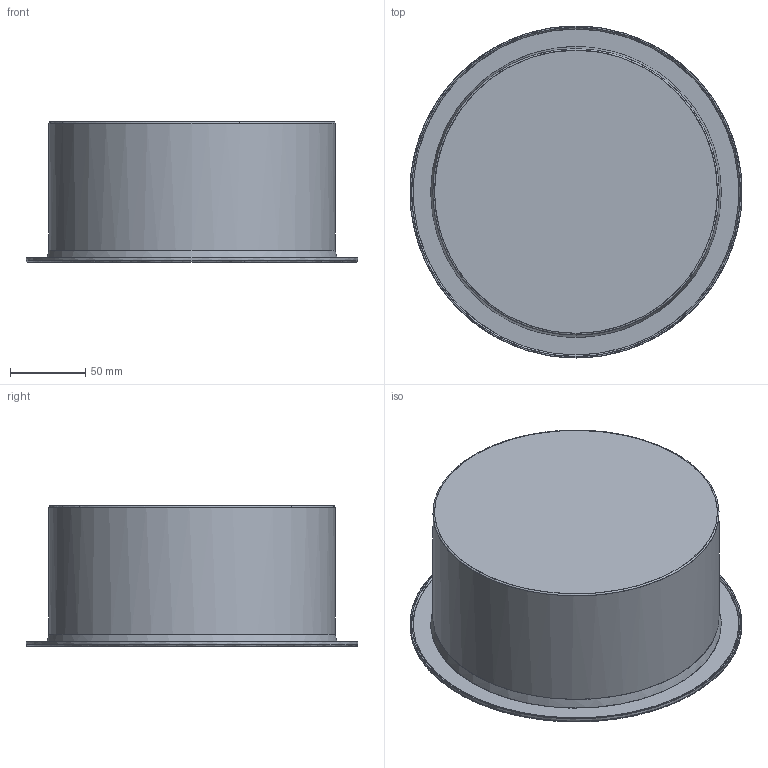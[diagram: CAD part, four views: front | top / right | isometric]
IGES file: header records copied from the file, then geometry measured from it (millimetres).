
Start section: SolidWorks IGES file using NURBS representation for surfaces
Global section: file name: Z:\Modele 3D_WWW\_Commercial\CL-KEA-LED\CL-KEA-LED-40W-8768-8767\CL-KEA-LED-40W-8768-8767.IGS; native system: SolidWorks 2021; preprocessor: SolidWorks 2021; author: gabriela.tworek; date: 220218.112347; units: millimetre
Bounding box: 219.87 x 220 x 93 mm (x, y, z)
Surface area: 278898.4 mm2 (no closed solid volume)
Topology: 0 solids, 0 shells, 24 faces, 102 edges, 88 vertices
Faces by surface type: bspline 24
